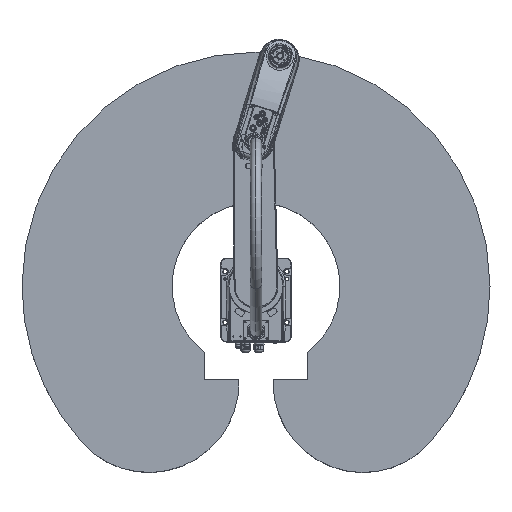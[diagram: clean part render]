
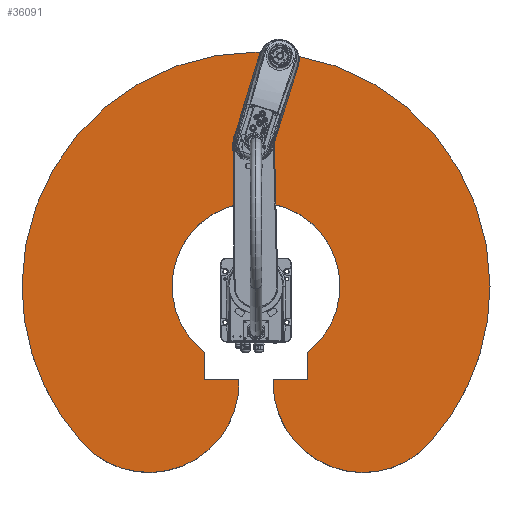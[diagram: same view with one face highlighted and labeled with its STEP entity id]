
A CAD part, top view. The second image highlights one B-rep face of the part: STEP entity #36091.
In plain terms, the highlighted planar face has unit normal (0, 0, 1).
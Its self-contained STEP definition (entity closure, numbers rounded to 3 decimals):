
#631 = FACE_OUTER_BOUND ( 'NONE', #57189, .T. ) ;
#924 = CARTESIAN_POINT ( 'NONE',  ( 0., 0., 240. ) ) ;
#1024 = CARTESIAN_POINT ( 'NONE',  ( 0., -260., 240. ) ) ;
#1414 = DIRECTION ( 'NONE',  ( 1., 0., 0. ) ) ;
#1711 = AXIS2_PLACEMENT_3D ( 'NONE', #17405, #84524, #15533 ) ;
#2122 = PLANE ( 'NONE',  #56804 ) ;
#3349 = CARTESIAN_POINT ( 'NONE',  ( 0., -260., 240. ) ) ;
#4006 = CARTESIAN_POINT ( 'NONE',  ( 0., 0., 240. ) ) ;
#4167 = VECTOR ( 'NONE', #37686, 1000. ) ;
#4798 = CARTESIAN_POINT ( 'NONE',  ( -142.733, -260., 240. ) ) ;
#6476 = CARTESIAN_POINT ( 'NONE',  ( 47.375, -260., 240. ) ) ;
#7429 = CARTESIAN_POINT ( 'NONE',  ( 47.258, -267.652, 240. ) ) ;
#7658 = CIRCLE ( 'NONE', #28622, 250. ) ;
#8432 = CARTESIAN_POINT ( 'NONE',  ( 297.258, -267.652, 240. ) ) ;
#8667 = DIRECTION ( 'NONE',  ( 1., 0., 0. ) ) ;
#9983 = EDGE_CURVE ( 'NONE', #22058, #93920, #18222, .T. ) ;
#10402 = LINE ( 'NONE', #3349, #89267 ) ;
#10436 = CARTESIAN_POINT ( 'NONE',  ( 483.044, -434.935, 240. ) ) ;
#11201 = EDGE_CURVE ( 'NONE', #87594, #74101, #66682, .T. ) ;
#11564 = DIRECTION ( 'NONE',  ( 0., 0., 1. ) ) ;
#11882 = CARTESIAN_POINT ( 'NONE',  ( -142.733, -184.31, 240. ) ) ;
#14042 = CARTESIAN_POINT ( 'NONE',  ( -297.258, -267.652, 240. ) ) ;
#14419 = EDGE_CURVE ( 'NONE', #93322, #33942, #80179, .T. ) ;
#15238 = CARTESIAN_POINT ( 'NONE',  ( 0., 0., 240. ) ) ;
#15533 = DIRECTION ( 'NONE',  ( 1., 0., 0. ) ) ;
#16082 = EDGE_CURVE ( 'NONE', #56736, #87594, #36529, .T. ) ;
#16742 = EDGE_CURVE ( 'NONE', #18481, #25021, #7658, .T. ) ;
#17405 = CARTESIAN_POINT ( 'NONE',  ( 0., 0., 240. ) ) ;
#18222 = CIRCLE ( 'NONE', #47246, 233.115 ) ;
#18481 = VERTEX_POINT ( 'NONE', #10436 ) ;
#19324 = DIRECTION ( 'NONE',  ( 0., 0., 1. ) ) ;
#19467 = VERTEX_POINT ( 'NONE', #6476 ) ;
#20955 = ORIENTED_EDGE ( 'NONE', *, *, #51048, .T. ) ;
#22058 = VERTEX_POINT ( 'NONE', #77311 ) ;
#24999 = CARTESIAN_POINT ( 'NONE',  ( 297.258, -267.652, 240. ) ) ;
#25021 = VERTEX_POINT ( 'NONE', #7429 ) ;
#25070 = DIRECTION ( 'NONE',  ( 1., 0., 0. ) ) ;
#25370 = AXIS2_PLACEMENT_3D ( 'NONE', #24999, #79333, #78840 ) ;
#26711 = DIRECTION ( 'NONE',  ( 1., 0., 0. ) ) ;
#26930 = DIRECTION ( 'NONE',  ( 1., 0., 0. ) ) ;
#27062 = EDGE_CURVE ( 'NONE', #93920, #37763, #69373, .T. ) ;
#28622 = AXIS2_PLACEMENT_3D ( 'NONE', #8432, #39190, #62330 ) ;
#29216 = ORIENTED_EDGE ( 'NONE', *, *, #27062, .F. ) ;
#33942 = VERTEX_POINT ( 'NONE', #4798 ) ;
#36091 = ADVANCED_FACE ( 'NONE', ( #631 ), #2122, .T. ) ;
#36529 = CIRCLE ( 'NONE', #73530, 650. ) ;
#36921 = VERTEX_POINT ( 'NONE', #62636 ) ;
#37686 = DIRECTION ( 'NONE',  ( 0., -1., 0. ) ) ;
#37763 = VERTEX_POINT ( 'NONE', #70579 ) ;
#38020 = EDGE_CURVE ( 'NONE', #36921, #56736, #84292, .T. ) ;
#39190 = DIRECTION ( 'NONE',  ( 0., 0., -1. ) ) ;
#39321 = AXIS2_PLACEMENT_3D ( 'NONE', #14042, #45783, #83032 ) ;
#40550 = EDGE_CURVE ( 'NONE', #33942, #74101, #10402, .T. ) ;
#40934 = AXIS2_PLACEMENT_3D ( 'NONE', #91176, #63793, #25070 ) ;
#42430 = CARTESIAN_POINT ( 'NONE',  ( -142.733, 0., 240. ) ) ;
#43722 = CARTESIAN_POINT ( 'NONE',  ( -47.375, -260., 240. ) ) ;
#45162 = CIRCLE ( 'NONE', #1711, 233.115 ) ;
#45783 = DIRECTION ( 'NONE',  ( 0., 0., 1. ) ) ;
#46955 = ORIENTED_EDGE ( 'NONE', *, *, #75329, .F. ) ;
#47072 = ORIENTED_EDGE ( 'NONE', *, *, #16742, .F. ) ;
#47244 = CIRCLE ( 'NONE', #97109, 650. ) ;
#47246 = AXIS2_PLACEMENT_3D ( 'NONE', #4006, #11564, #26711 ) ;
#47277 = DIRECTION ( 'NONE',  ( 0., 0., 1. ) ) ;
#50659 = CARTESIAN_POINT ( 'NONE',  ( -483.044, -434.935, 240. ) ) ;
#50911 = ORIENTED_EDGE ( 'NONE', *, *, #85354, .T. ) ;
#51048 = EDGE_CURVE ( 'NONE', #22058, #52785, #91046, .T. ) ;
#52431 = ORIENTED_EDGE ( 'NONE', *, *, #92480, .F. ) ;
#52785 = VERTEX_POINT ( 'NONE', #79543 ) ;
#52806 = CARTESIAN_POINT ( 'NONE',  ( 142.733, 0., 240. ) ) ;
#53776 = ORIENTED_EDGE ( 'NONE', *, *, #63822, .F. ) ;
#55915 = CIRCLE ( 'NONE', #25370, 250. ) ;
#56736 = VERTEX_POINT ( 'NONE', #83658 ) ;
#56804 = AXIS2_PLACEMENT_3D ( 'NONE', #15238, #85714, #8667 ) ;
#57189 = EDGE_LOOP ( 'NONE', ( #81870, #20955, #53776, #52431, #47072, #50911, #99209, #99544, #73821, #87965, #91650, #46955, #29216 ) ) ;
#59915 = DIRECTION ( 'NONE',  ( 1., 0., 0. ) ) ;
#60816 = CARTESIAN_POINT ( 'NONE',  ( 233.115, 0., 240. ) ) ;
#62330 = DIRECTION ( 'NONE',  ( 1., 0., 0. ) ) ;
#62636 = CARTESIAN_POINT ( 'NONE',  ( 650., 0., 240. ) ) ;
#63793 = DIRECTION ( 'NONE',  ( 0., 0., 1. ) ) ;
#63822 = EDGE_CURVE ( 'NONE', #19467, #52785, #69987, .T. ) ;
#66473 = CARTESIAN_POINT ( 'NONE',  ( 0., 0., 240. ) ) ;
#66682 = CIRCLE ( 'NONE', #39321, 250. ) ;
#68514 = DIRECTION ( 'NONE',  ( 1., 0., 0. ) ) ;
#69373 = CIRCLE ( 'NONE', #85490, 233.115 ) ;
#69987 = LINE ( 'NONE', #1024, #85395 ) ;
#70579 = CARTESIAN_POINT ( 'NONE',  ( -233.115, 0., 240. ) ) ;
#73348 = DIRECTION ( 'NONE',  ( 1., 0., 0. ) ) ;
#73530 = AXIS2_PLACEMENT_3D ( 'NONE', #924, #47277, #1414 ) ;
#73821 = ORIENTED_EDGE ( 'NONE', *, *, #11201, .T. ) ;
#74101 = VERTEX_POINT ( 'NONE', #43722 ) ;
#75329 = EDGE_CURVE ( 'NONE', #37763, #93322, #45162, .T. ) ;
#77311 = CARTESIAN_POINT ( 'NONE',  ( 142.733, -184.31, 240. ) ) ;
#78840 = DIRECTION ( 'NONE',  ( 1., 0., 0. ) ) ;
#79333 = DIRECTION ( 'NONE',  ( 0., 0., -1. ) ) ;
#79543 = CARTESIAN_POINT ( 'NONE',  ( 142.733, -260., 240. ) ) ;
#80179 = LINE ( 'NONE', #42430, #97401 ) ;
#81152 = DIRECTION ( 'NONE',  ( 0., -1., 0. ) ) ;
#81870 = ORIENTED_EDGE ( 'NONE', *, *, #9983, .F. ) ;
#82075 = DIRECTION ( 'NONE',  ( 0., 0., 1. ) ) ;
#83032 = DIRECTION ( 'NONE',  ( 1., 0., 0. ) ) ;
#83658 = CARTESIAN_POINT ( 'NONE',  ( -650., 0., 240. ) ) ;
#84292 = CIRCLE ( 'NONE', #40934, 650. ) ;
#84524 = DIRECTION ( 'NONE',  ( 0., 0., 1. ) ) ;
#85354 = EDGE_CURVE ( 'NONE', #18481, #36921, #47244, .T. ) ;
#85395 = VECTOR ( 'NONE', #68514, 1000. ) ;
#85490 = AXIS2_PLACEMENT_3D ( 'NONE', #66473, #82075, #59915 ) ;
#85714 = DIRECTION ( 'NONE',  ( 0., 0., 1. ) ) ;
#87594 = VERTEX_POINT ( 'NONE', #50659 ) ;
#87965 = ORIENTED_EDGE ( 'NONE', *, *, #40550, .F. ) ;
#89267 = VECTOR ( 'NONE', #73348, 1000. ) ;
#91046 = LINE ( 'NONE', #52806, #4167 ) ;
#91176 = CARTESIAN_POINT ( 'NONE',  ( 0., 0., 240. ) ) ;
#91650 = ORIENTED_EDGE ( 'NONE', *, *, #14419, .F. ) ;
#92480 = EDGE_CURVE ( 'NONE', #25021, #19467, #55915, .T. ) ;
#93322 = VERTEX_POINT ( 'NONE', #11882 ) ;
#93920 = VERTEX_POINT ( 'NONE', #60816 ) ;
#96876 = CARTESIAN_POINT ( 'NONE',  ( 0., 0., 240. ) ) ;
#97109 = AXIS2_PLACEMENT_3D ( 'NONE', #96876, #19324, #26930 ) ;
#97401 = VECTOR ( 'NONE', #81152, 1000. ) ;
#99209 = ORIENTED_EDGE ( 'NONE', *, *, #38020, .T. ) ;
#99544 = ORIENTED_EDGE ( 'NONE', *, *, #16082, .T. ) ;
